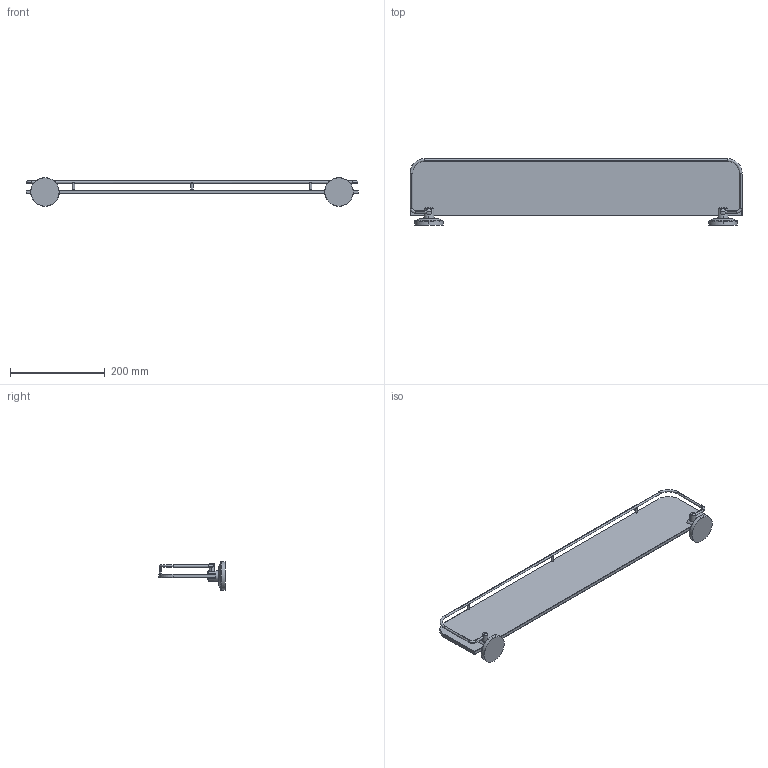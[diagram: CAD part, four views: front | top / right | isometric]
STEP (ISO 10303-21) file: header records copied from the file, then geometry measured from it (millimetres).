
FILE_DESCRIPTION(('THIS FILE CONTAINS SOME STEP INSTANCES'),'1');
FILE_NAME('sta_017.stp','2015-12-02T15:18:55',('UNDEFINED'),('UNDEFINED'),'T-FLEX CAD STEP converter','T-FLEX CAD','');
FILE_SCHEMA(('CONFIG_CONTROL_DESIGN'));
Length unit declared in the file: metre
Products named in the file (2): 3D 鐨飹懤艜_12; 610519
Bounding box: 700 x 140.1 x 60 mm (x, y, z)
Volume: 771157.9 mm3; surface area: 214046.9 mm2
Topology: 2 solids, 2 shells, 169 faces, 383 edges, 216 vertices
Faces by surface type: plane 47, cone 36, cylinder 30, bspline 30, torus 16, sphere 10
Entity records: 14277 total; most frequent: CARTESIAN_POINT 11046, ORIENTED_EDGE 758, DIRECTION 542, EDGE_CURVE 379, VERTEX_POINT 216, AXIS2_PLACEMENT_3D 194, EDGE_LOOP 171, ADVANCED_FACE 169
